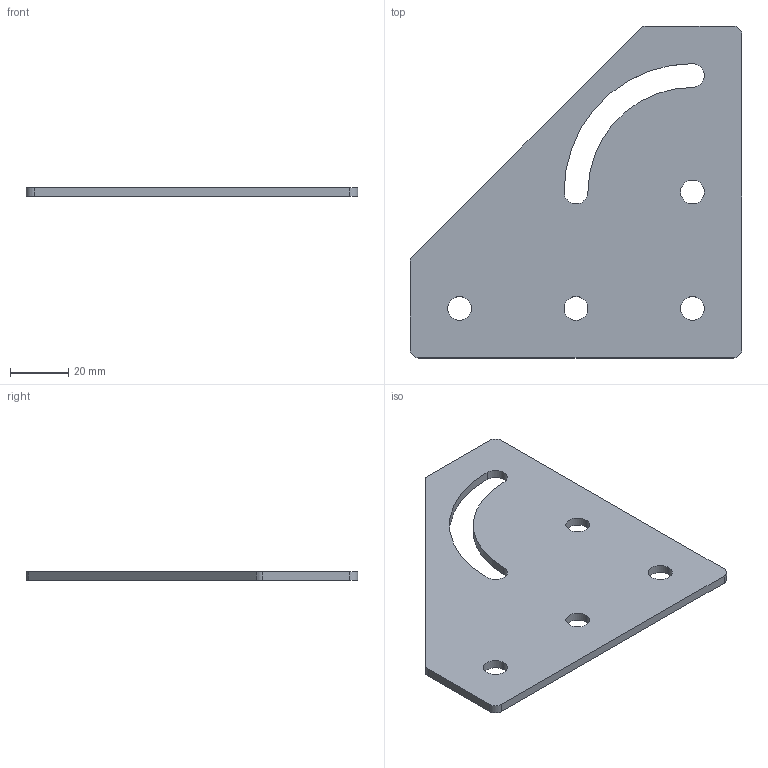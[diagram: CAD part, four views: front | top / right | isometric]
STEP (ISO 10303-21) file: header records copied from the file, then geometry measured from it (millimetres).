
FILE_DESCRIPTION (( 'STEP AP214' ), '1' );
FILE_NAME ('deg90s40.STEP', '2018-03-07T10:06:06', ( '' ), ( '' ), 'SwSTEP 2.0', 'SolidWorks 2014', '' );
FILE_SCHEMA (( 'AUTOMOTIVE_DESIGN' ));
Length unit declared in the file: millimetre
Products named in the file (2): deg90s40
Bounding box: 114 x 114 x 3 mm (x, y, z)
Volume: 27031.6 mm3; surface area: 19999.5 mm2
Topology: 1 solids, 1 shells, 25 faces, 69 edges, 46 vertices
Faces by surface type: cylinder 18, plane 7
Entity records: 899 total; most frequent: DIRECTION 159, CARTESIAN_POINT 142, ORIENTED_EDGE 138, EDGE_CURVE 69, AXIS2_PLACEMENT_3D 63, VERTEX_POINT 46, CIRCLE 36, EDGE_LOOP 35
